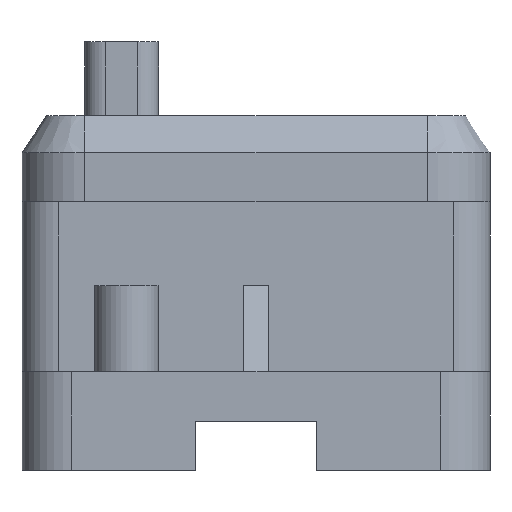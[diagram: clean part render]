
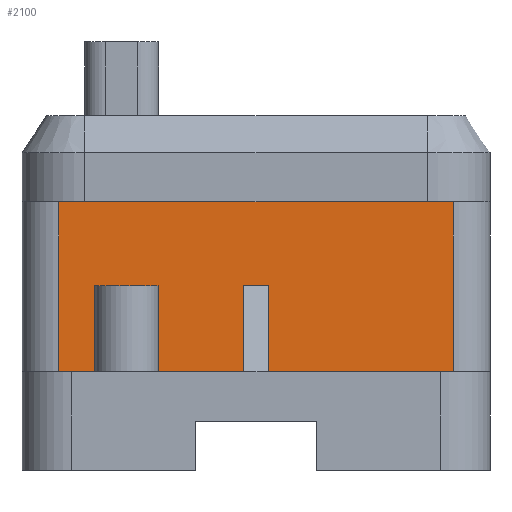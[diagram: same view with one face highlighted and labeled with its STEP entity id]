
A CAD part, left-side view. The second image highlights one B-rep face of the part: STEP entity #2100.
In plain terms, the highlighted planar face has unit normal (-1, 0, 0).
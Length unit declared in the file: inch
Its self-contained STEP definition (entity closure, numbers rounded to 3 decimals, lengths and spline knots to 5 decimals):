
#124 = VERTEX_POINT ( 'NONE', #858 ) ;
#176 = VERTEX_POINT ( 'NONE', #257 ) ;
#190 = CARTESIAN_POINT ( 'NONE',  ( -0.775, 0.8, 1.09 ) ) ;
#220 = DIRECTION ( 'NONE',  ( 0., 0., 1. ) ) ;
#257 = CARTESIAN_POINT ( 'NONE',  ( -0.775, -0.05, 0.75 ) ) ;
#340 = LINE ( 'NONE', #1932, #599 ) ;
#352 = DIRECTION ( 'NONE',  ( 0., 0., -1. ) ) ;
#361 = FACE_OUTER_BOUND ( 'NONE', #1978, .T. ) ;
#366 = EDGE_CURVE ( 'NONE', #505, #1034, #340, .T. ) ;
#388 = DIRECTION ( 'NONE',  ( 0., -1., 0. ) ) ;
#405 = DIRECTION ( 'NONE',  ( 0., -1., 0. ) ) ;
#420 = VECTOR ( 'NONE', #388, 39.37008 ) ;
#445 = CARTESIAN_POINT ( 'NONE',  ( -0.775, 0.05, 1.09008 ) ) ;
#461 = DIRECTION ( 'NONE',  ( 0., 1., 0. ) ) ;
#494 = CARTESIAN_POINT ( 'NONE',  ( -0.775, 0.05, 0.75 ) ) ;
#505 = VERTEX_POINT ( 'NONE', #929 ) ;
#536 = VECTOR ( 'NONE', #405, 39.37008 ) ;
#551 = CARTESIAN_POINT ( 'NONE',  ( -0.775, 0., 1.09008 ) ) ;
#599 = VECTOR ( 'NONE', #833, 39.37008 ) ;
#635 = VECTOR ( 'NONE', #220, 39.37008 ) ;
#722 = VECTOR ( 'NONE', #461, 39.37008 ) ;
#726 = AXIS2_PLACEMENT_3D ( 'NONE', #551, #2183, #1988 ) ;
#741 = PLANE ( 'NONE',  #726 ) ;
#833 = DIRECTION ( 'NONE',  ( 0., 0., 1. ) ) ;
#840 = CARTESIAN_POINT ( 'NONE',  ( -0.775, 0.05, 0.4 ) ) ;
#855 = CARTESIAN_POINT ( 'NONE',  ( -0.775, 0., 0.4 ) ) ;
#858 = CARTESIAN_POINT ( 'NONE',  ( -0.775, -0.05, 0.4 ) ) ;
#929 = CARTESIAN_POINT ( 'NONE',  ( -0.775, -0.8, 0.4 ) ) ;
#940 = CARTESIAN_POINT ( 'NONE',  ( -0.775, -0.8, 1.09 ) ) ;
#961 = ORIENTED_EDGE ( 'NONE', *, *, #366, .T. ) ;
#977 = VECTOR ( 'NONE', #352, 39.37008 ) ;
#1034 = VERTEX_POINT ( 'NONE', #940 ) ;
#1064 = VERTEX_POINT ( 'NONE', #1662 ) ;
#1080 = CARTESIAN_POINT ( 'NONE',  ( -0.775, 0.8, 0.4 ) ) ;
#1239 = VERTEX_POINT ( 'NONE', #840 ) ;
#1281 = LINE ( 'NONE', #1815, #635 ) ;
#1317 = LINE ( 'NONE', #2005, #536 ) ;
#1344 = CARTESIAN_POINT ( 'NONE',  ( -0.775, 0., 0.75 ) ) ;
#1347 = ORIENTED_EDGE ( 'NONE', *, *, #2159, .T. ) ;
#1376 = LINE ( 'NONE', #445, #2252 ) ;
#1551 = EDGE_CURVE ( 'NONE', #124, #176, #1281, .T. ) ;
#1578 = EDGE_CURVE ( 'NONE', #1239, #1590, #1376, .T. ) ;
#1590 = VERTEX_POINT ( 'NONE', #494 ) ;
#1609 = LINE ( 'NONE', #1080, #977 ) ;
#1629 = ORIENTED_EDGE ( 'NONE', *, *, #1551, .F. ) ;
#1649 = EDGE_CURVE ( 'NONE', #124, #505, #1730, .T. ) ;
#1662 = CARTESIAN_POINT ( 'NONE',  ( -0.775, 0.8, 0.4 ) ) ;
#1701 = EDGE_CURVE ( 'NONE', #176, #1590, #2269, .T. ) ;
#1717 = ORIENTED_EDGE ( 'NONE', *, *, #2279, .F. ) ;
#1730 = LINE ( 'NONE', #855, #2102 ) ;
#1741 = DIRECTION ( 'NONE',  ( 0., 0., 1. ) ) ;
#1759 = ORIENTED_EDGE ( 'NONE', *, *, #1578, .T. ) ;
#1815 = CARTESIAN_POINT ( 'NONE',  ( -0.775, -0.05, 1.09008 ) ) ;
#1894 = DIRECTION ( 'NONE',  ( 0., -1., 0. ) ) ;
#1931 = ORIENTED_EDGE ( 'NONE', *, *, #1649, .T. ) ;
#1932 = CARTESIAN_POINT ( 'NONE',  ( -0.775, -0.8, 1.09008 ) ) ;
#1949 = ORIENTED_EDGE ( 'NONE', *, *, #2109, .T. ) ;
#1978 = EDGE_LOOP ( 'NONE', ( #1629, #1931, #961, #1717, #1347, #1949, #1759, #2044 ) ) ;
#1980 = CARTESIAN_POINT ( 'NONE',  ( -0.775, 0., 0.4 ) ) ;
#1988 = DIRECTION ( 'NONE',  ( 0., 1., 0. ) ) ;
#2005 = CARTESIAN_POINT ( 'NONE',  ( -0.775, 0., 1.09 ) ) ;
#2044 = ORIENTED_EDGE ( 'NONE', *, *, #1701, .F. ) ;
#2063 = VERTEX_POINT ( 'NONE', #190 ) ;
#2100 = ADVANCED_FACE ( 'NONE', ( #361 ), #741, .F. ) ;
#2102 = VECTOR ( 'NONE', #1894, 39.37008 ) ;
#2109 = EDGE_CURVE ( 'NONE', #1064, #1239, #2173, .T. ) ;
#2159 = EDGE_CURVE ( 'NONE', #2063, #1064, #1609, .T. ) ;
#2173 = LINE ( 'NONE', #1980, #420 ) ;
#2183 = DIRECTION ( 'NONE',  ( 1., 0., 0. ) ) ;
#2252 = VECTOR ( 'NONE', #1741, 39.37008 ) ;
#2269 = LINE ( 'NONE', #1344, #722 ) ;
#2279 = EDGE_CURVE ( 'NONE', #2063, #1034, #1317, .T. ) ;
